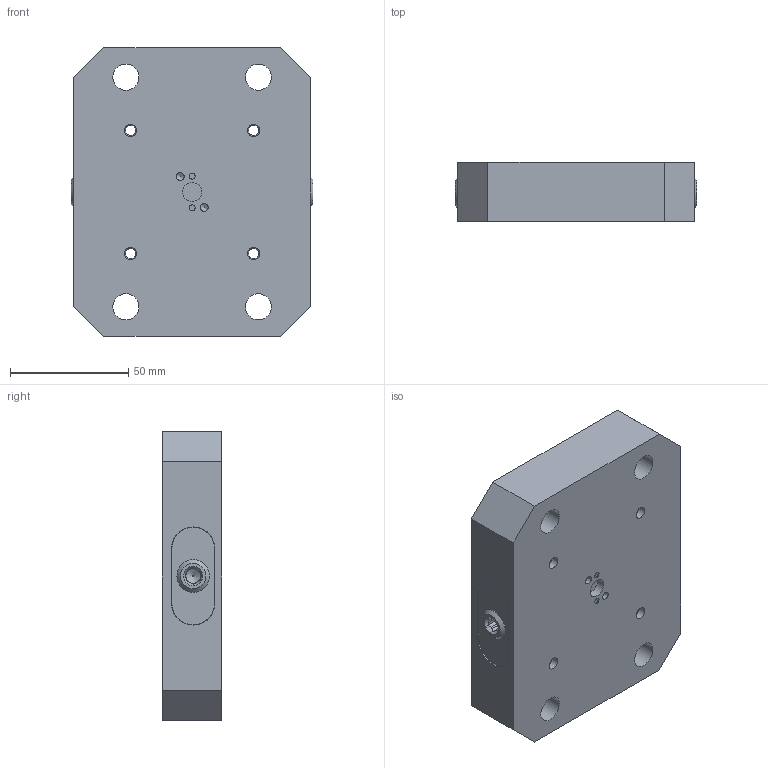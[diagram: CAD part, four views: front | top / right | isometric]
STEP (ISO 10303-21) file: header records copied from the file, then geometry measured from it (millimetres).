
FILE_DESCRIPTION (( 'STEP AP214' ), '1' );
FILE_NAME ('RL52S-4560_WEBSITE.STEP', '2025-08-11T12:15:09', ( '' ), ( '' ), 'SwSTEP 2.0', 'SolidWorks 2025', '' );
FILE_SCHEMA (( 'AUTOMOTIVE_DESIGN' ));
Length unit declared in the file: inch
Products named in the file (10): 9452K77-Truck-O-Ring_WEBSITE; D_RL52-2L_WEBSITE; RL52S-4560_WEBSITE; 9452K168-Base-O-Ring_WEBSITE; D_RL52-14560S_WEBSITE; D_RL52-2R_WEBSITE; D_92981A144_ALLOY STEEL SHOULDER SCREW_WEBSITE_92981A144; 9750K720_PLASTIC ROUND PLUG_WEBSITE_9750K72; D_RL52-3_WEBSITE; D_HW22X16.DB_WEBSITE
Assembly tree (16 placements, depth 2):
  RL52S-4560_WEBSITE
    D_RL52-14560S_WEBSITE
    D_RL52-2L_WEBSITE
    D_RL52-2R_WEBSITE
    D_RL52-3_WEBSITE
    D_HW22X16.DB_WEBSITE  x4
    D_92981A144_ALLOY STEEL SHOULDER SCREW_WEBSITE_92981A144  x2
    9452K168-Base-O-Ring_WEBSITE  x4
    9452K77-Truck-O-Ring_WEBSITE  x2
  9750K720_PLASTIC ROUND PLUG_WEBSITE_9750K72
Bounding box: 102.11 x 25 x 122 mm (x, y, z)
Volume: 254096.4 mm3; surface area: 69029.3 mm2
Topology: 18 solids, 18 shells, 278 faces, 598 edges, 373 vertices
Faces by surface type: plane 161, cylinder 87, cone 22, torus 6, bspline 2
Full cylindrical faces by diameter (mm): 0.254 x2, 2.5 x2, 3 x2, 3.3 x2, 4 x2, 4.089 x2, 5.182 x4, 6 x2, 6.147 x2, 7 x2, 8.026 x1, 8.89 x1, 9.144 x4, 9.525 x4, 11 x4, 12 x2, 13.754 x2, 15.24 x2, 15.291 x4, 15.875 x1, 16.002 x4, 16.03 x4, 18 x4, 21.976 x4, 21.994 x4, 22.047 x4
Entity records: 8022 total; most frequent: CARTESIAN_POINT 2345, DIRECTION 1104, ORIENTED_EDGE 876, AXIS2_PLACEMENT_3D 449, EDGE_CURVE 438, EDGE_LOOP 378, VERTEX_POINT 316, FACE_OUTER_BOUND 300
